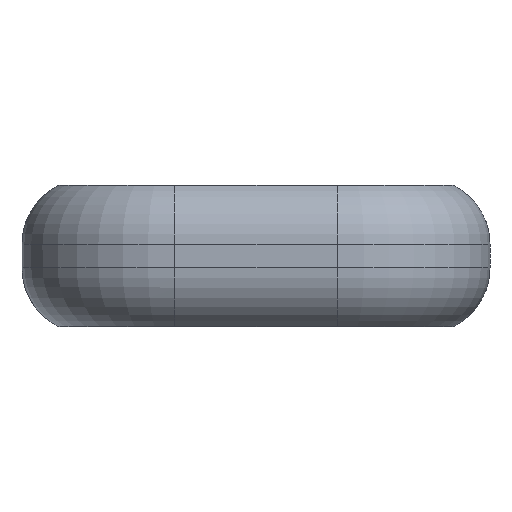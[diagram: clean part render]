
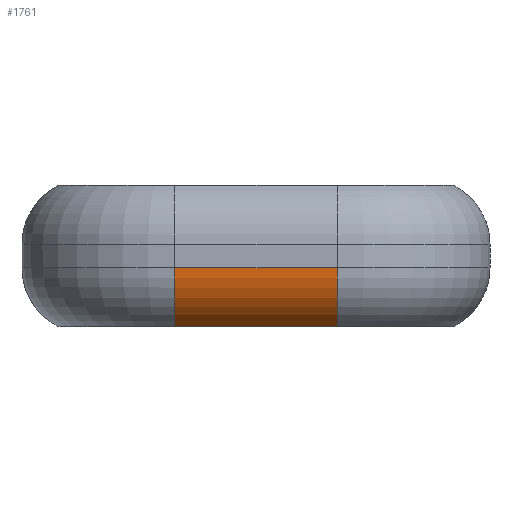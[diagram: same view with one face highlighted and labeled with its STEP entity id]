
A CAD part, front view. The second image highlights one B-rep face of the part: STEP entity #1761.
In plain terms, the highlighted cylindrical face has radius 11.35 mm (diameter 22.7 mm), a partial arc.
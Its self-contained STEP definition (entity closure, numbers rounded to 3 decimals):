
#83=CYLINDRICAL_SURFACE('',#1917,11.35);
#149=FACE_OUTER_BOUND('',#253,.T.);
#253=EDGE_LOOP('',(#1336,#1337,#1338,#1339));
#341=CIRCLE('',#1877,11.35);
#361=CIRCLE('',#1918,11.35);
#475=LINE('',#3298,#617);
#476=LINE('',#3301,#618);
#617=VECTOR('',#2249,1.);
#618=VECTOR('',#2252,1.);
#750=VERTEX_POINT('',#3021);
#751=VERTEX_POINT('',#3022);
#780=VERTEX_POINT('',#3297);
#781=VERTEX_POINT('',#3299);
#925=EDGE_CURVE('',#750,#751,#341,.T.);
#979=EDGE_CURVE('',#780,#751,#475,.T.);
#980=EDGE_CURVE('',#781,#780,#361,.T.);
#981=EDGE_CURVE('',#781,#750,#476,.T.);
#1336=ORIENTED_EDGE('',*,*,#925,.T.);
#1337=ORIENTED_EDGE('',*,*,#979,.F.);
#1338=ORIENTED_EDGE('',*,*,#980,.F.);
#1339=ORIENTED_EDGE('',*,*,#981,.T.);
#1761=ADVANCED_FACE('',(#149),#83,.T.);
#1877=AXIS2_PLACEMENT_3D('',#3023,#2141,#2142);
#1917=AXIS2_PLACEMENT_3D('',#3296,#2247,#2248);
#1918=AXIS2_PLACEMENT_3D('',#3300,#2250,#2251);
#2141=DIRECTION('center_axis',(1.,0.,0.));
#2142=DIRECTION('ref_axis',(0.,-1.,0.));
#2247=DIRECTION('center_axis',(-1.,0.,0.));
#2248=DIRECTION('ref_axis',(0.,-1.,0.));
#2249=DIRECTION('',(-1.,0.,0.));
#2250=DIRECTION('center_axis',(1.,0.,0.));
#2251=DIRECTION('ref_axis',(0.,-1.,0.));
#2252=DIRECTION('',(-1.,0.,0.));
#3021=CARTESIAN_POINT('',(-14.,-76.35,-14.));
#3022=CARTESIAN_POINT('',(-14.,-70.,-24.189));
#3023=CARTESIAN_POINT('Origin',(-14.,-65.,-14.));
#3296=CARTESIAN_POINT('Origin',(14.,-65.,-14.));
#3297=CARTESIAN_POINT('',(14.,-70.,-24.189));
#3298=CARTESIAN_POINT('',(14.,-70.,-24.189));
#3299=CARTESIAN_POINT('',(14.,-76.35,-14.));
#3300=CARTESIAN_POINT('Origin',(14.,-65.,-14.));
#3301=CARTESIAN_POINT('',(14.,-76.35,-14.));
